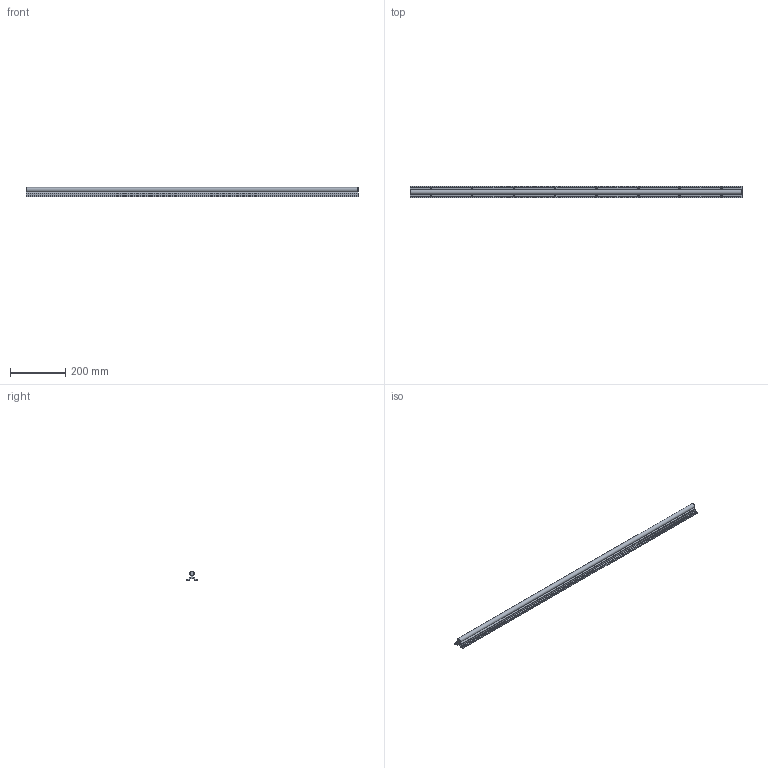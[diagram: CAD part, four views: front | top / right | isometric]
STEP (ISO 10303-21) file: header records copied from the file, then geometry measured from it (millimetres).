
FILE_DESCRIPTION(/* description */ (''),/* implementation_level */ '2;1');
FILE_NAME(/* name */ 'C:\Users\David\Desktop\stepFiles\Profilfuehrung\LFS16x1200.stp',/* time_stamp */ '2018-06-24T15:18:17+02:00',/* author */ ('Buskamp'),/* organization */ (''),/* preprocessor_version */ 'ST-DEVELOPER v17',/* originating_system */ 'Autodesk Inventor 2019',/* authorisation */ '');
FILE_SCHEMA (('AUTOMOTIVE_DESIGN { 1 0 10303 214 3 1 1 }'));
Length unit declared in the file: millimetre
Products named in the file (1): Linearführung D16xvariabel
Bounding box: 1200 x 40 x 32.97 mm (x, y, z)
Volume: 612820.9 mm3; surface area: 188578 mm2
Topology: 1 solids, 1 shells, 108 faces, 350 edges, 228 vertices
Faces by surface type: plane 73, cone 18, cylinder 17
Full cylindrical faces by diameter (mm): 5.5 x16
Entity records: 3945 total; most frequent: CARTESIAN_POINT 759, ORIENTED_EDGE 700, DIRECTION 664, EDGE_CURVE 350, AXIS2_PLACEMENT_3D 241, VERTEX_POINT 228, LINE 182, VECTOR 182
